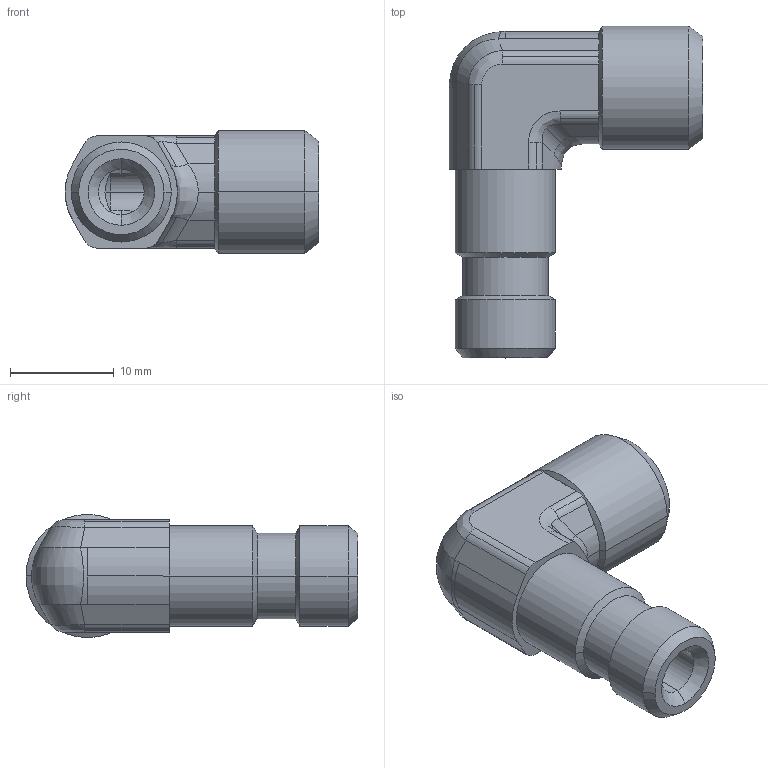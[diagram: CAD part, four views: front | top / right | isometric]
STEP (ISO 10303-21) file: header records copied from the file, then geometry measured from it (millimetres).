
FILE_DESCRIPTION((''),'2;1');
FILE_NAME('106104.stp','2007-10-31T14:51:08',(''),(''),'AutoCAD STEP 2000i','AutoCAD 2000i',', , ');
FILE_SCHEMA(('CONFIG_CONTROL_DESIGN'));
Length unit declared in the file: millimetre
Products named in the file (2): 106104.0; 3090#0
Assembly tree (1 placements, depth 2):
  106104.0
    3090#0
Bounding box: 24.4 x 31.93 x 11.85 mm (x, y, z)
Volume: 3103.3 mm3; surface area: 2278.4 mm2
Topology: 1 solids, 1 shells, 99 faces, 228 edges, 135 vertices
Faces by surface type: cylinder 44, plane 22, cone 21, bspline 12
Entity records: 3623 total; most frequent: CARTESIAN_POINT 1275, DIRECTION 493, ORIENTED_EDGE 456, EDGE_CURVE 228, AXIS2_PLACEMENT_3D 200, VERTEX_POINT 135, EDGE_LOOP 105, CIRCLE 101
